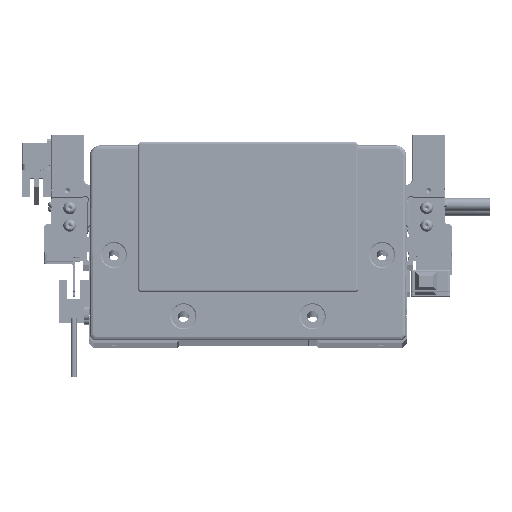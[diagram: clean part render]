
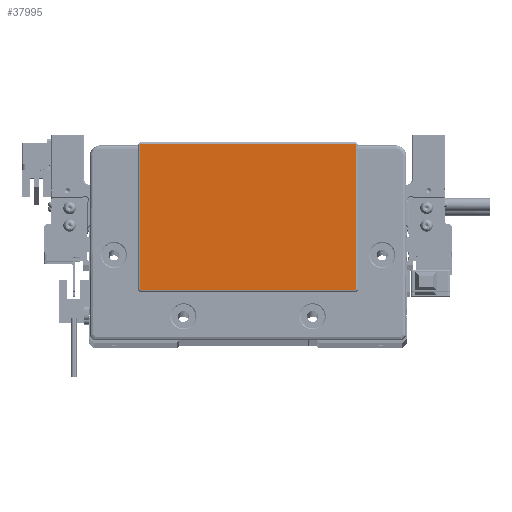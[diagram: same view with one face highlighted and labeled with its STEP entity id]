
A CAD part, top view. The second image highlights one B-rep face of the part: STEP entity #37995.
In plain terms, the highlighted planar face has unit normal (0, 0, 1) as drawn and (0, 0, -1) by its records, which use the part's own axes.
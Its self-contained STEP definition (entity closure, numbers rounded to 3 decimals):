
#3 = CARTESIAN_POINT ( 'NONE',  ( -48.75, -21.8, -2. ) ) ;
#1087 = CARTESIAN_POINT ( 'NONE',  ( 48.75, 43.8, -2. ) ) ;
#3422 = EDGE_CURVE ( 'NONE', #32580, #81525, #103213, .T. ) ;
#6232 = ORIENTED_EDGE ( 'NONE', *, *, #95623, .T. ) ;
#6260 = DIRECTION ( 'NONE',  ( 0., -1., 0. ) ) ;
#7283 = CARTESIAN_POINT ( 'NONE',  ( 49.25, 43.8, -2. ) ) ;
#8353 = AXIS2_PLACEMENT_3D ( 'NONE', #1087, #89958, #52553 ) ;
#10068 = DIRECTION ( 'NONE',  ( -1., 0., 0. ) ) ;
#10510 = CARTESIAN_POINT ( 'NONE',  ( -48.75, 44.3, -2. ) ) ;
#11310 = EDGE_CURVE ( 'NONE', #84131, #57498, #51859, .T. ) ;
#12804 = EDGE_CURVE ( 'NONE', #57498, #32580, #82492, .T. ) ;
#13507 = EDGE_CURVE ( 'NONE', #56237, #45129, #30874, .T. ) ;
#13781 = VECTOR ( 'NONE', #6260, 1000. ) ;
#13998 = VECTOR ( 'NONE', #41745, 1000. ) ;
#15255 = ORIENTED_EDGE ( 'NONE', *, *, #12804, .T. ) ;
#18137 = ORIENTED_EDGE ( 'NONE', *, *, #44705, .T. ) ;
#19955 = AXIS2_PLACEMENT_3D ( 'NONE', #67149, #68300, #31485 ) ;
#22097 = DIRECTION ( 'NONE',  ( 1., 0., 0. ) ) ;
#26314 = DIRECTION ( 'NONE',  ( -1., 0., 0. ) ) ;
#27547 = FACE_OUTER_BOUND ( 'NONE', #55103, .T. ) ;
#30874 = LINE ( 'NONE', #66545, #35341 ) ;
#30902 = CIRCLE ( 'NONE', #8353, 0.5 ) ;
#31485 = DIRECTION ( 'NONE',  ( -1., 0., 0. ) ) ;
#31627 = CARTESIAN_POINT ( 'NONE',  ( -49.25, -21.8, -2. ) ) ;
#32580 = VERTEX_POINT ( 'NONE', #35544 ) ;
#35341 = VECTOR ( 'NONE', #22097, 1000. ) ;
#35544 = CARTESIAN_POINT ( 'NONE',  ( -48.75, -22.3, -2. ) ) ;
#35668 = ORIENTED_EDGE ( 'NONE', *, *, #11310, .T. ) ;
#37434 = ORIENTED_EDGE ( 'NONE', *, *, #97100, .T. ) ;
#37995 = ADVANCED_FACE ( 'NONE', ( #27547 ), #62068, .T. ) ;
#40615 = LINE ( 'NONE', #111393, #13998 ) ;
#41338 = VERTEX_POINT ( 'NONE', #7283 ) ;
#41745 = DIRECTION ( 'NONE',  ( 0., 1., 0. ) ) ;
#42519 = AXIS2_PLACEMENT_3D ( 'NONE', #55150, #90230, #10068 ) ;
#42544 = LINE ( 'NONE', #112772, #13781 ) ;
#44705 = EDGE_CURVE ( 'NONE', #41338, #84131, #42544, .T. ) ;
#45129 = VERTEX_POINT ( 'NONE', #88436 ) ;
#45332 = VERTEX_POINT ( 'NONE', #56833 ) ;
#46236 = DIRECTION ( 'NONE',  ( -1., 0., 0. ) ) ;
#46814 = CARTESIAN_POINT ( 'NONE',  ( -48.75, -22.3, -2. ) ) ;
#51859 = CIRCLE ( 'NONE', #42519, 0.5 ) ;
#52553 = DIRECTION ( 'NONE',  ( -1., 0., 0. ) ) ;
#55103 = EDGE_LOOP ( 'NONE', ( #18137, #35668, #15255, #66773, #6232, #37434, #86359, #64085 ) ) ;
#55150 = CARTESIAN_POINT ( 'NONE',  ( 48.75, -21.8, -2. ) ) ;
#56237 = VERTEX_POINT ( 'NONE', #10510 ) ;
#56529 = AXIS2_PLACEMENT_3D ( 'NONE', #3, #81873, #26314 ) ;
#56833 = CARTESIAN_POINT ( 'NONE',  ( -49.25, 43.8, -2. ) ) ;
#57498 = VERTEX_POINT ( 'NONE', #76600 ) ;
#57614 = CARTESIAN_POINT ( 'NONE',  ( 49.25, -21.8, -2. ) ) ;
#62068 = PLANE ( 'NONE',  #112559 ) ;
#64085 = ORIENTED_EDGE ( 'NONE', *, *, #114131, .T. ) ;
#66545 = CARTESIAN_POINT ( 'NONE',  ( 48.75, 44.3, -2. ) ) ;
#66773 = ORIENTED_EDGE ( 'NONE', *, *, #3422, .T. ) ;
#67149 = CARTESIAN_POINT ( 'NONE',  ( -48.75, 43.8, -2. ) ) ;
#68300 = DIRECTION ( 'NONE',  ( 0., 0., -1. ) ) ;
#72581 = DIRECTION ( 'NONE',  ( -1., 0., 0. ) ) ;
#76600 = CARTESIAN_POINT ( 'NONE',  ( 48.75, -22.3, -2. ) ) ;
#79593 = CARTESIAN_POINT ( 'NONE',  ( 0., 0., -2. ) ) ;
#81525 = VERTEX_POINT ( 'NONE', #31627 ) ;
#81873 = DIRECTION ( 'NONE',  ( 0., 0., -1. ) ) ;
#82492 = LINE ( 'NONE', #46814, #91386 ) ;
#84131 = VERTEX_POINT ( 'NONE', #57614 ) ;
#86359 = ORIENTED_EDGE ( 'NONE', *, *, #13507, .T. ) ;
#87130 = CIRCLE ( 'NONE', #19955, 0.5 ) ;
#88436 = CARTESIAN_POINT ( 'NONE',  ( 48.75, 44.3, -2. ) ) ;
#89958 = DIRECTION ( 'NONE',  ( 0., 0., -1. ) ) ;
#90230 = DIRECTION ( 'NONE',  ( 0., 0., -1. ) ) ;
#91386 = VECTOR ( 'NONE', #46236, 1000. ) ;
#95623 = EDGE_CURVE ( 'NONE', #81525, #45332, #40615, .T. ) ;
#97100 = EDGE_CURVE ( 'NONE', #45332, #56237, #87130, .T. ) ;
#97166 = DIRECTION ( 'NONE',  ( 0., 0., -1. ) ) ;
#103213 = CIRCLE ( 'NONE', #56529, 0.5 ) ;
#111393 = CARTESIAN_POINT ( 'NONE',  ( -49.25, 43.8, -2. ) ) ;
#112559 = AXIS2_PLACEMENT_3D ( 'NONE', #79593, #97166, #72581 ) ;
#112772 = CARTESIAN_POINT ( 'NONE',  ( 49.25, -21.8, -2. ) ) ;
#114131 = EDGE_CURVE ( 'NONE', #45129, #41338, #30902, .T. ) ;
